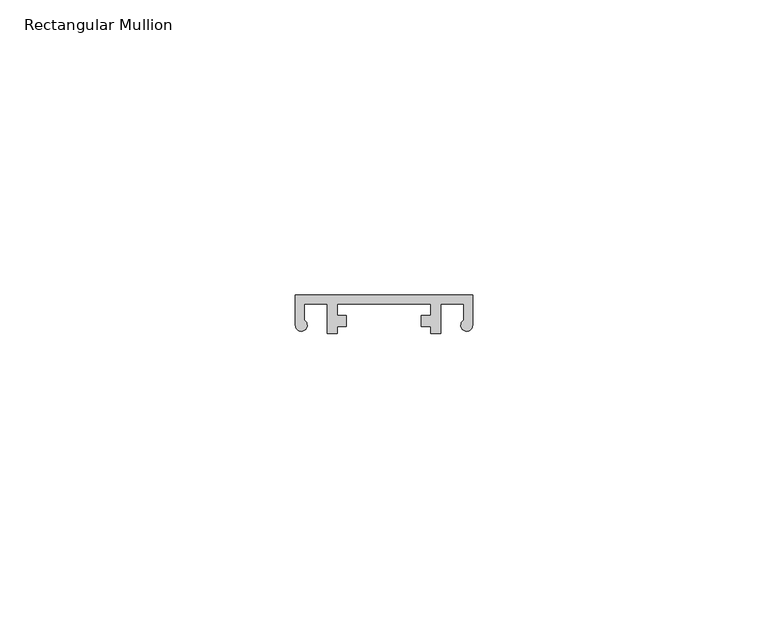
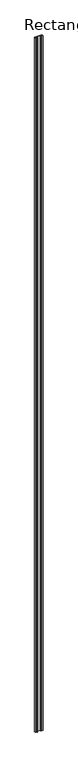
"""IFC4 building model written with IfcOpenShell, lengths in millimetres: member geometry, Rectangular Mullion : NLRS_21_CWM_drager LD.0065 - links_Storax."""

from ifc_helpers import new_model, si_unit, point, frame, frame_2d, origin, place, context, project, spatial, polyline, circle_curve, trimmed, segment, composite_curve, outline, extrude, source, transform, mapped, element, save


def rectangular_mullion_ffdfeaf4(model_context):
    return source(origin(), model_context, "Body", "SweptSolid", [
        extrude(outline(composite_curve([segment(trimmed(circle_curve(frame_2d((-51.0, -6.1202978)), 1.0), [point((-50.0, -6.1202978))], [point((-51.4796095, -5.2428158))], False, "CARTESIAN"), True, "CONTINUOUS"), segment(polyline([(-51.4796095, -5.2428158), (-51.4796095, -2.5), (-55.3524274, -2.5), (-55.3524274, -7.5), (-57.1130599, -7.5), (-57.1130599, -6.2999542), (-58.6524274, -6.2999542), (-58.6524274, -4.4494935), (-57.1130599, -4.4494935), (-57.1130599, -2.5), (-72.8869401, -2.5), (-72.8869401, -4.4494935), (-71.3598609, -4.4494935), (-71.3598609, -6.2999542), (-72.8869401, -6.2999542), (-72.8869401, -7.5), (-74.6475726, -7.5), (-74.6475726, -2.5), (-78.5203905, -2.5), (-78.5203905, -5.2428158)]), True, "CONTINUOUS"), segment(trimmed(circle_curve(frame_2d((-79.0, -6.1202978)), 1.0), [point((-78.5203905, -5.2428158))], [point((-80.0, -6.1202978))], False, "CARTESIAN"), True, "CONTINUOUS"), segment(polyline([(-80.0, -6.1202978), (-80.0, -1.0), (-50.0, -1.0), (-50.0, -6.1202978)]), True, "CONTINUOUS")], self_intersect=False)), frame((0.0, 0.0, -3000.0), z_axis=(0.0, 0.0, 1.0), x_axis=(1.0, 0.0, 0.0)), (0.0, 0.0, 1.0), 3000.0),
    ])


if __name__ == "__main__":
    model = new_model("IFC4")
    model_context = context("Model", 3, world=origin())
    ifc_project = project(units=[si_unit("LENGTHUNIT", "METRE", prefix="MILLI")], contexts=[model_context])
    site = spatial("IfcSite", under=ifc_project)
    building = spatial("IfcBuilding", under=site)
    placement = place(None, origin())
    rectangular_mullion_shape = rectangular_mullion_ffdfeaf4(model_context)
    element("IfcMember", 1, ObjectType="Rectangular Mullion : NLRS_21_CWM_drager LD.0065 - links_Storax", at=placement, inside=building, context=model_context, shape_type="MappedRepresentation", body=[
        mapped(rectangular_mullion_shape, transform((0.0, 0.0, 0.0), x_axis=(1.0, 0.0, 0.0), y_axis=(0.0, 1.0, 0.0), z_axis=(0.0, 0.0, 1.0))),
    ])
    save(model, "model.ifc")
